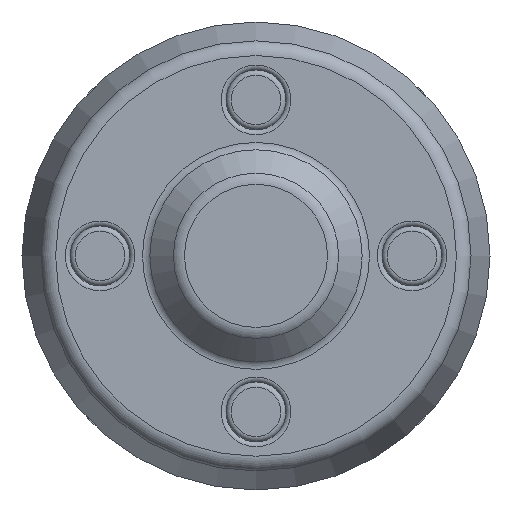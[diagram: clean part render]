
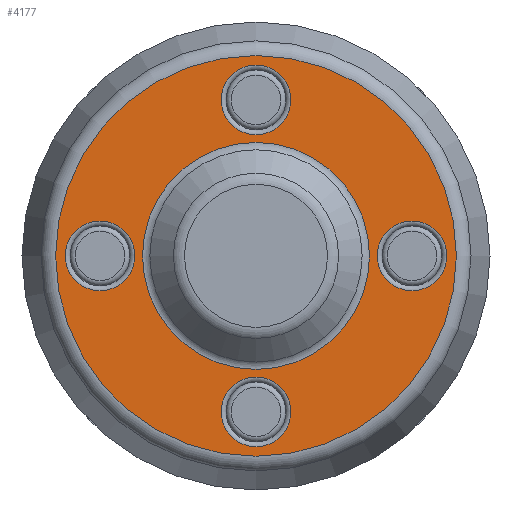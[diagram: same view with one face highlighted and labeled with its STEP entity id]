
A CAD part, top view. The second image highlights one B-rep face of the part: STEP entity #4177.
In plain terms, the highlighted planar face has unit normal (0, 0, 1).
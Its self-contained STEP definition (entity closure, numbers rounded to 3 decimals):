
#4177=ADVANCED_FACE('',(#10875,#10877,#10879,#10881,#10883,#10885),#10887,.T.);
#10875=FACE_BOUND('',#10876,.T.);
#10876=EDGE_LOOP('',(#56272));
#10877=FACE_BOUND('',#10878,.T.);
#10878=EDGE_LOOP('',(#56273));
#10879=FACE_BOUND('',#10880,.T.);
#10880=EDGE_LOOP('',(#56274));
#10881=FACE_BOUND('',#10882,.T.);
#10882=EDGE_LOOP('',(#56275));
#10883=FACE_BOUND('',#10884,.T.);
#10884=EDGE_LOOP('',(#56276));
#10885=FACE_BOUND('',#10886,.T.);
#10886=EDGE_LOOP('',(#56277));
#10887=PLANE('',#10888);
#10888=AXIS2_PLACEMENT_3D('',#10889,#10890,#10891);
#10889=CARTESIAN_POINT('',(0.,0.,-12.));
#10890=DIRECTION('',(0.,0.,1.));
#10891=DIRECTION('',(-1.,0.,0.));
#56272=ORIENTED_EDGE('',*,*,#60080,.F.);
#56273=ORIENTED_EDGE('',*,*,#60081,.F.);
#56274=ORIENTED_EDGE('',*,*,#60082,.F.);
#56275=ORIENTED_EDGE('',*,*,#60083,.T.);
#56276=ORIENTED_EDGE('',*,*,#60084,.F.);
#56277=ORIENTED_EDGE('',*,*,#60085,.F.);
#60080=EDGE_CURVE('',#63775,#63775,#63776,.T.);
#60081=EDGE_CURVE('',#63777,#63777,#63778,.F.);
#60082=EDGE_CURVE('',#63779,#63779,#63780,.F.);
#60083=EDGE_CURVE('',#63781,#63781,#63782,.T.);
#60084=EDGE_CURVE('',#63783,#63783,#63784,.F.);
#60085=EDGE_CURVE('',#63785,#63785,#63786,.F.);
#63775=VERTEX_POINT('',#85146);
#63776=CIRCLE('',#85147,77.063);
#63777=VERTEX_POINT('',#85151);
#63778=CIRCLE('',#85152,13.4);
#63779=VERTEX_POINT('',#85156);
#63780=CIRCLE('',#85157,13.4);
#63781=VERTEX_POINT('',#85161);
#63782=CIRCLE('',#85162,43.657);
#63783=VERTEX_POINT('',#85166);
#63784=CIRCLE('',#85167,13.4);
#63785=VERTEX_POINT('',#85171);
#63786=CIRCLE('',#85172,13.4);
#85146=CARTESIAN_POINT('',(-77.063,0.,-12.));
#85147=AXIS2_PLACEMENT_3D('',#85148,#85149,#85150);
#85148=CARTESIAN_POINT('',(0.,0.,-12.));
#85149=DIRECTION('',(0.,0.,-1.));
#85150=DIRECTION('',(-1.,0.,0.));
#85151=CARTESIAN_POINT('',(0.,73.4,-12.));
#85152=AXIS2_PLACEMENT_3D('',#85153,#85154,#85155);
#85153=CARTESIAN_POINT('',(0.,60.,-12.));
#85154=DIRECTION('',(0.,0.,-1.));
#85155=DIRECTION('',(0.,1.,0.));
#85156=CARTESIAN_POINT('',(0.,-73.4,-12.));
#85157=AXIS2_PLACEMENT_3D('',#85158,#85159,#85160);
#85158=CARTESIAN_POINT('',(0.,-60.,-12.));
#85159=DIRECTION('',(0.,0.,-1.));
#85160=DIRECTION('',(0.,-1.,0.));
#85161=CARTESIAN_POINT('',(-43.657,0.,-12.));
#85162=AXIS2_PLACEMENT_3D('',#85163,#85164,#85165);
#85163=CARTESIAN_POINT('',(0.,0.,-12.));
#85164=DIRECTION('',(0.,0.,-1.));
#85165=DIRECTION('',(-1.,0.,0.));
#85166=CARTESIAN_POINT('',(-73.4,0.,-12.));
#85167=AXIS2_PLACEMENT_3D('',#85168,#85169,#85170);
#85168=CARTESIAN_POINT('',(-60.,0.,-12.));
#85169=DIRECTION('',(0.,0.,-1.));
#85170=DIRECTION('',(-1.,0.,0.));
#85171=CARTESIAN_POINT('',(73.4,0.,-12.));
#85172=AXIS2_PLACEMENT_3D('',#85173,#85174,#85175);
#85173=CARTESIAN_POINT('',(60.,0.,-12.));
#85174=DIRECTION('',(0.,0.,-1.));
#85175=DIRECTION('',(1.,0.,0.));
